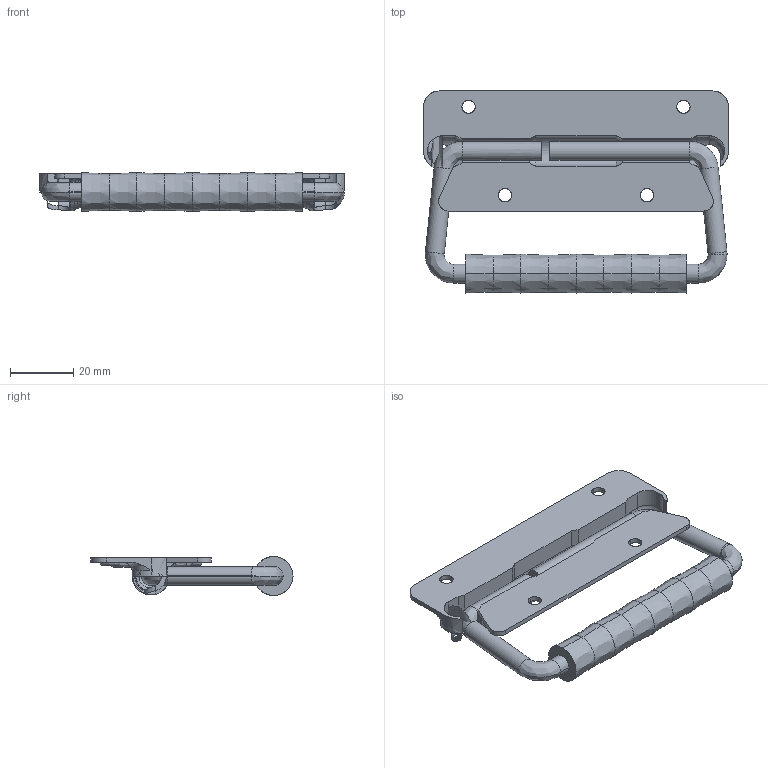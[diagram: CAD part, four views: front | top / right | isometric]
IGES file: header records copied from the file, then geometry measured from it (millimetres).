
Start section: SolidWorks IGES FILE using analytic representation for surfaces
Global section: file name: C:\Documents and Settings\lecoutey\Bureau\PO 304\PO 304.IGS; native system: SolidWorks 2004 by SolidWorks Corporation; preprocessor: Version 5.3; author: lecoutey; date: 050408.134910; units: millimetre
Bounding box: 96.5 x 63.95 x 12.3 mm (x, y, z)
Surface area: 16102.4 mm2 (no closed solid volume)
Topology: 0 solids, 0 shells, 247 faces, 2229 edges, 2217 vertices
Faces by surface type: bspline 133, revolution 114
